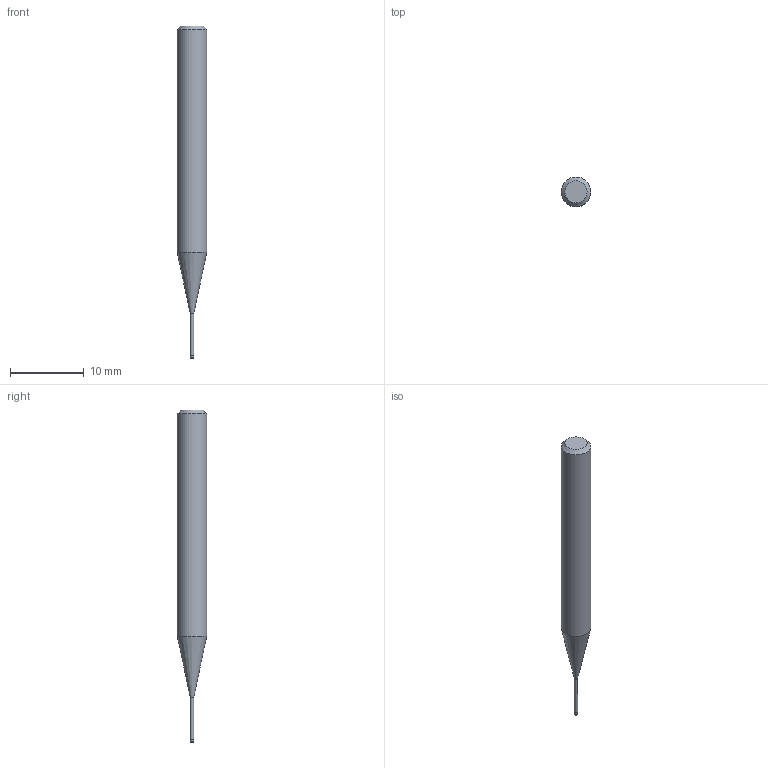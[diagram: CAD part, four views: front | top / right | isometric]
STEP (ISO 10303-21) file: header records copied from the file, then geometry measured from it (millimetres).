
FILE_DESCRIPTION((''),'2;1');
FILE_NAME('C:\Users\nsx150\AppData\Local\Temp\Mastercam 2021\17T8Q8S9EB\TEMP.step','2021-04-21T14:31:09',(''),(''),'STEP Write','Mastercam 2021 ... CNC Software, Inc.','');
FILE_SCHEMA(('AUTOMOTIVE_DESIGN'));
Length unit declared in the file: millimetre
Products named in the file (1): None
Bounding box: 4 x 4 x 45 mm (x, y, z)
Volume: 424.4 mm3; surface area: 462.9 mm2
Topology: 2 solids, 2 shells, 10 faces, 14 edges, 8 vertices
Faces by surface type: plane 4, cylinder 3, cone 2, torus 1
Full cylindrical faces by diameter (mm): 0.46 x1, 0.5 x1, 4 x1
Entity records: 232 total; most frequent: DIRECTION 40, CARTESIAN_POINT 28, AXIS2_PLACEMENT_3D 20, ORIENTED_EDGE 16, EDGE_LOOP 16, STYLED_ITEM 13, ADVANCED_FACE 10, FACE_BOUND 10
